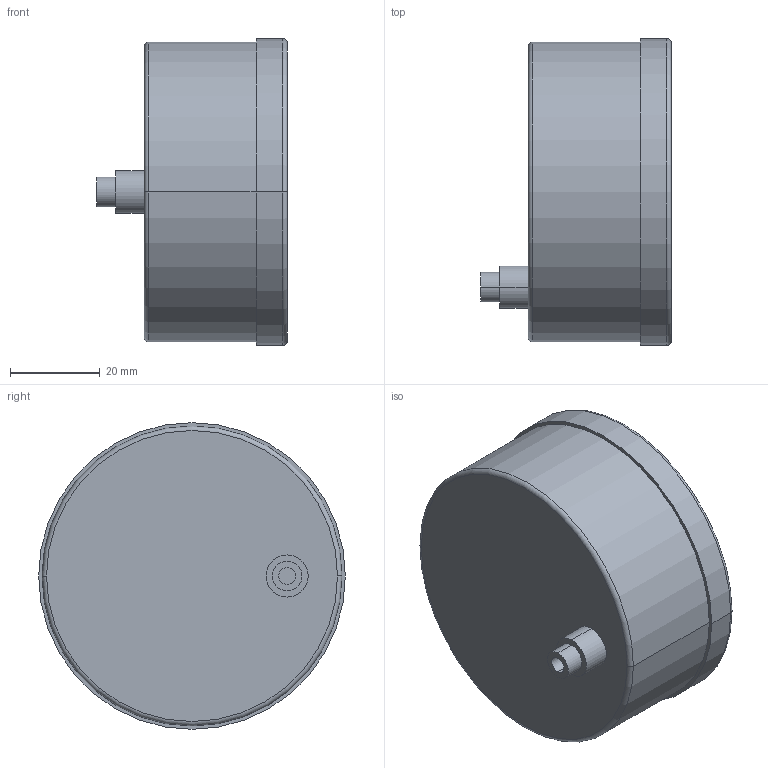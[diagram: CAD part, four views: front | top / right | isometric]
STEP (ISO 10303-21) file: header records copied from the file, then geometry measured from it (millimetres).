
FILE_DESCRIPTION (( 'STEP AP214' ), '1' );
FILE_NAME ('000.9-60-36-L.step', '2020-05-11T18:30:40', ( '' ), ( '' ), 'SwSTEP 2.0', 'SolidWorks 2019', '' );
FILE_SCHEMA (( 'AUTOMOTIVE_DESIGN' ));
Length unit declared in the file: millimetre
Products named in the file (1): 000.9-60-36-L
Bounding box: 42.6 x 68.5 x 68.5 mm (x, y, z)
Volume: 108663.4 mm3; surface area: 14743.6 mm2
Topology: 1 solids, 1 shells, 33 faces, 71 edges, 46 vertices
Faces by surface type: plane 17, cylinder 12, torus 4
Entity records: 994 total; most frequent: DIRECTION 171, CARTESIAN_POINT 151, ORIENTED_EDGE 142, EDGE_CURVE 71, AXIS2_PLACEMENT_3D 66, VERTEX_POINT 46, LINE 39, VECTOR 39
